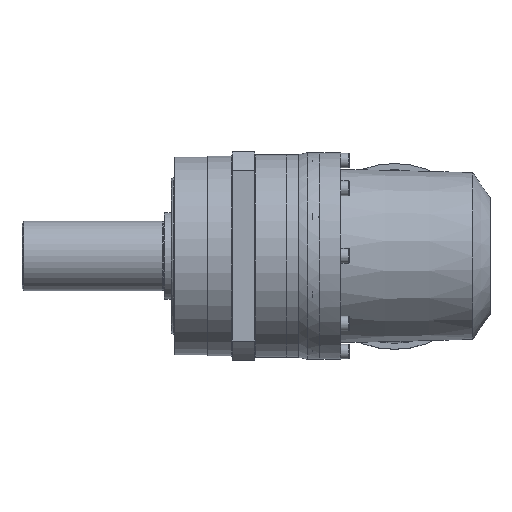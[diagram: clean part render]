
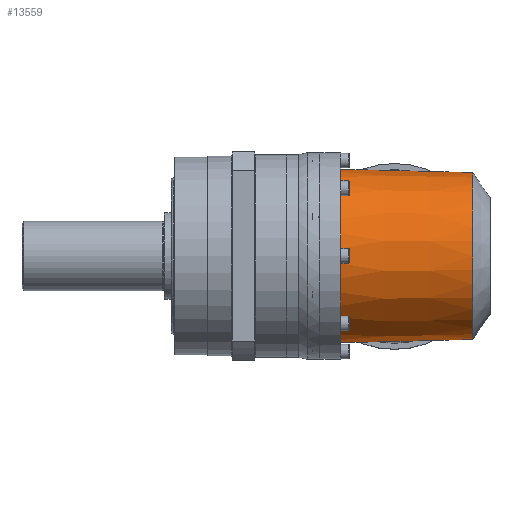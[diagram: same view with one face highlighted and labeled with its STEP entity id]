
A CAD part, top view. The second image highlights one B-rep face of the part: STEP entity #13559.
In plain terms, the highlighted conical face has half-angle 1.507 degrees and reference radius 49 mm.
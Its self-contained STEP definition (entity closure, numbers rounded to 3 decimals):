
#759=CONICAL_SURFACE('',#15159,49.,0.026);
#1571=FACE_OUTER_BOUND('',#2383,.T.);
#2383=EDGE_LOOP('',(#10405,#10406,#10407,#10408,#10409,#10410,#10411));
#3133=B_SPLINE_CURVE_WITH_KNOTS('',3,(#23238,#23239,#23240,#23241),
 .UNSPECIFIED.,.F.,.F.,(4,4),(0.5,5.292),
 .UNSPECIFIED.);
#3137=B_SPLINE_CURVE_WITH_KNOTS('',3,(#23399,#23400,#23401,#23402,#23403,
#23404,#23405,#23406,#23407,#23408,#23409,#23410,#23411,#23412,#23413,#23414,
#23415,#23416,#23417,#23418,#23419,#23420,#23421,#23422,#23423,#23424,#23425,
#23426,#23427,#23428,#23429,#23430,#23431,#23432,#23433,#23434,#23435,#23436,
#23437,#23438),.UNSPECIFIED.,.F.,.F.,(4,3,3,3,3,3,3,3,3,3,3,3,3,4),(-10.923,
-10.569,-10.204,-9.819,-9.568,
-9.149,-8.714,-8.257,-8.03,
-7.583,-7.137,-6.894,-6.651,
-6.492),.UNSPECIFIED.);
#3142=B_SPLINE_CURVE_WITH_KNOTS('',3,(#23471,#23472,#23473,#23474,#23475,
#23476,#23477,#23478,#23479,#23480,#23481,#23482,#23483,#23484,#23485,#23486,
#23487,#23488,#23489,#23490,#23491,#23492,#23493,#23494,#23495,#23496,#23497,
#23498,#23499,#23500,#23501,#23502,#23503,#23504,#23505,#23506,#23507,#23508,
#23509,#23510),.UNSPECIFIED.,.F.,.F.,(4,3,3,3,3,3,3,3,3,3,3,3,3,4),(-17.257,
-16.765,-16.229,-15.718,-15.217,-14.775,
-14.561,-14.258,-14.181,-13.89,
-13.609,-13.335,-13.072,-12.825),
 .UNSPECIFIED.);
#3143=B_SPLINE_CURVE_WITH_KNOTS('',3,(#23532,#23533,#23534,#23535),
 .UNSPECIFIED.,.F.,.F.,(4,4),(-5.292,-0.5),
 .UNSPECIFIED.);
#4840=CIRCLE('',#15160,48.);
#4841=CIRCLE('',#15161,48.);
#4842=CIRCLE('',#15162,50.);
#6111=VERTEX_POINT('',#23187);
#6112=VERTEX_POINT('',#23237);
#6114=VERTEX_POINT('',#23323);
#6115=VERTEX_POINT('',#23324);
#6116=VERTEX_POINT('',#23398);
#6120=VERTEX_POINT('',#23531);
#6123=VERTEX_POINT('',#23596);
#7810=EDGE_CURVE('',#6111,#6112,#3133,.T.);
#7814=EDGE_CURVE('',#6114,#6116,#3137,.T.);
#7819=EDGE_CURVE('',#6112,#6115,#3142,.T.);
#7820=EDGE_CURVE('',#6116,#6120,#3143,.T.);
#7824=EDGE_CURVE('',#6114,#6123,#4840,.T.);
#7825=EDGE_CURVE('',#6123,#6115,#4841,.T.);
#7826=EDGE_CURVE('',#6120,#6111,#4842,.T.);
#10405=ORIENTED_EDGE('',*,*,#7820,.F.);
#10406=ORIENTED_EDGE('',*,*,#7814,.F.);
#10407=ORIENTED_EDGE('',*,*,#7824,.T.);
#10408=ORIENTED_EDGE('',*,*,#7825,.T.);
#10409=ORIENTED_EDGE('',*,*,#7819,.F.);
#10410=ORIENTED_EDGE('',*,*,#7810,.F.);
#10411=ORIENTED_EDGE('',*,*,#7826,.F.);
#13559=ADVANCED_FACE('',(#1571),#759,.T.);
#15159=AXIS2_PLACEMENT_3D('',#23595,#17882,#17883);
#15160=AXIS2_PLACEMENT_3D('',#23597,#17884,#17885);
#15161=AXIS2_PLACEMENT_3D('',#23598,#17886,#17887);
#15162=AXIS2_PLACEMENT_3D('',#23599,#17888,#17889);
#17882=DIRECTION('center_axis',(-1.,0.,0.));
#17883=DIRECTION('ref_axis',(0.,0.,-1.));
#17884=DIRECTION('center_axis',(-1.,0.,0.));
#17885=DIRECTION('ref_axis',(0.,0.,1.));
#17886=DIRECTION('center_axis',(-1.,0.,0.));
#17887=DIRECTION('ref_axis',(0.,0.,1.));
#17888=DIRECTION('center_axis',(-1.,0.,0.));
#17889=DIRECTION('ref_axis',(0.,0.,1.));
#23187=CARTESIAN_POINT('',(12.,-35.15,35.559));
#23237=CARTESIAN_POINT('',(59.899,-34.554,34.374));
#23238=CARTESIAN_POINT('Ctrl Pts',(12.,-35.15,35.559));
#23239=CARTESIAN_POINT('Ctrl Pts',(27.966,-34.952,35.164));
#23240=CARTESIAN_POINT('Ctrl Pts',(43.932,-34.753,34.769));
#23241=CARTESIAN_POINT('Ctrl Pts',(59.899,-34.554,34.374));
#23323=CARTESIAN_POINT('',(88.,8.479,47.245));
#23324=CARTESIAN_POINT('',(88.,-8.479,47.245));
#23398=CARTESIAN_POINT('',(59.899,34.554,34.374));
#23399=CARTESIAN_POINT('Ctrl Pts',(88.,8.479,47.246));
#23400=CARTESIAN_POINT('Ctrl Pts',(87.704,9.501,47.07));
#23401=CARTESIAN_POINT('Ctrl Pts',(87.357,10.505,46.864));
#23402=CARTESIAN_POINT('Ctrl Pts',(86.962,11.488,46.631));
#23403=CARTESIAN_POINT('Ctrl Pts',(86.555,12.499,46.392));
#23404=CARTESIAN_POINT('Ctrl Pts',(86.099,13.488,46.125));
#23405=CARTESIAN_POINT('Ctrl Pts',(85.597,14.452,45.836));
#23406=CARTESIAN_POINT('Ctrl Pts',(85.068,15.466,45.53));
#23407=CARTESIAN_POINT('Ctrl Pts',(84.49,16.452,45.2));
#23408=CARTESIAN_POINT('Ctrl Pts',(83.867,17.405,44.849));
#23409=CARTESIAN_POINT('Ctrl Pts',(83.46,18.028,44.619));
#23410=CARTESIAN_POINT('Ctrl Pts',(83.034,18.637,44.381));
#23411=CARTESIAN_POINT('Ctrl Pts',(82.591,19.231,44.136));
#23412=CARTESIAN_POINT('Ctrl Pts',(81.849,20.225,43.726));
#23413=CARTESIAN_POINT('Ctrl Pts',(81.059,21.177,43.295));
#23414=CARTESIAN_POINT('Ctrl Pts',(80.223,22.089,42.849));
#23415=CARTESIAN_POINT('Ctrl Pts',(79.358,23.033,42.388));
#23416=CARTESIAN_POINT('Ctrl Pts',(78.444,23.934,41.912));
#23417=CARTESIAN_POINT('Ctrl Pts',(77.486,24.792,41.427));
#23418=CARTESIAN_POINT('Ctrl Pts',(76.482,25.691,40.919));
#23419=CARTESIAN_POINT('Ctrl Pts',(75.431,26.543,40.402));
#23420=CARTESIAN_POINT('Ctrl Pts',(74.336,27.347,39.884));
#23421=CARTESIAN_POINT('Ctrl Pts',(73.79,27.748,39.626));
#23422=CARTESIAN_POINT('Ctrl Pts',(73.233,28.138,39.368));
#23423=CARTESIAN_POINT('Ctrl Pts',(72.667,28.516,39.11));
#23424=CARTESIAN_POINT('Ctrl Pts',(71.556,29.257,38.605));
#23425=CARTESIAN_POINT('Ctrl Pts',(70.406,29.954,38.103));
#23426=CARTESIAN_POINT('Ctrl Pts',(69.22,30.605,37.613));
#23427=CARTESIAN_POINT('Ctrl Pts',(68.034,31.256,37.124));
#23428=CARTESIAN_POINT('Ctrl Pts',(66.811,31.862,36.647));
#23429=CARTESIAN_POINT('Ctrl Pts',(65.554,32.421,36.19));
#23430=CARTESIAN_POINT('Ctrl Pts',(64.87,32.726,35.942));
#23431=CARTESIAN_POINT('Ctrl Pts',(64.175,33.017,35.7));
#23432=CARTESIAN_POINT('Ctrl Pts',(63.471,33.294,35.466));
#23433=CARTESIAN_POINT('Ctrl Pts',(62.767,33.571,35.231));
#23434=CARTESIAN_POINT('Ctrl Pts',(62.053,33.834,35.005));
#23435=CARTESIAN_POINT('Ctrl Pts',(61.33,34.083,34.788));
#23436=CARTESIAN_POINT('Ctrl Pts',(60.857,34.246,34.645));
#23437=CARTESIAN_POINT('Ctrl Pts',(60.38,34.403,34.507));
#23438=CARTESIAN_POINT('Ctrl Pts',(59.899,34.554,34.374));
#23471=CARTESIAN_POINT('Ctrl Pts',(59.899,-34.554,34.374));
#23472=CARTESIAN_POINT('Ctrl Pts',(61.387,-34.087,34.787));
#23473=CARTESIAN_POINT('Ctrl Pts',(62.837,-33.563,35.243));
#23474=CARTESIAN_POINT('Ctrl Pts',(64.246,-32.982,35.727));
#23475=CARTESIAN_POINT('Ctrl Pts',(65.782,-32.349,36.256));
#23476=CARTESIAN_POINT('Ctrl Pts',(67.27,-31.648,36.82));
#23477=CARTESIAN_POINT('Ctrl Pts',(68.706,-30.882,37.403));
#23478=CARTESIAN_POINT('Ctrl Pts',(70.073,-30.152,37.959));
#23479=CARTESIAN_POINT('Ctrl Pts',(71.393,-29.363,38.532));
#23480=CARTESIAN_POINT('Ctrl Pts',(72.664,-28.514,39.11));
#23481=CARTESIAN_POINT('Ctrl Pts',(73.913,-27.68,39.678));
#23482=CARTESIAN_POINT('Ctrl Pts',(75.114,-26.789,40.251));
#23483=CARTESIAN_POINT('Ctrl Pts',(76.261,-25.841,40.817));
#23484=CARTESIAN_POINT('Ctrl Pts',(77.271,-25.005,41.315));
#23485=CARTESIAN_POINT('Ctrl Pts',(78.238,-24.124,41.809));
#23486=CARTESIAN_POINT('Ctrl Pts',(79.158,-23.199,42.289));
#23487=CARTESIAN_POINT('Ctrl Pts',(79.604,-22.751,42.522));
#23488=CARTESIAN_POINT('Ctrl Pts',(80.038,-22.292,42.752));
#23489=CARTESIAN_POINT('Ctrl Pts',(80.461,-21.822,42.978));
#23490=CARTESIAN_POINT('Ctrl Pts',(81.058,-21.158,43.297));
#23491=CARTESIAN_POINT('Ctrl Pts',(81.632,-20.474,43.609));
#23492=CARTESIAN_POINT('Ctrl Pts',(82.18,-19.768,43.91));
#23493=CARTESIAN_POINT('Ctrl Pts',(82.319,-19.589,43.986));
#23494=CARTESIAN_POINT('Ctrl Pts',(82.456,-19.408,44.062));
#23495=CARTESIAN_POINT('Ctrl Pts',(82.592,-19.227,44.137));
#23496=CARTESIAN_POINT('Ctrl Pts',(83.107,-18.537,44.422));
#23497=CARTESIAN_POINT('Ctrl Pts',(83.598,-17.827,44.697));
#23498=CARTESIAN_POINT('Ctrl Pts',(84.064,-17.1,44.96));
#23499=CARTESIAN_POINT('Ctrl Pts',(84.511,-16.4,45.213));
#23500=CARTESIAN_POINT('Ctrl Pts',(84.935,-15.683,45.454));
#23501=CARTESIAN_POINT('Ctrl Pts',(85.332,-14.95,45.682));
#23502=CARTESIAN_POINT('Ctrl Pts',(85.719,-14.236,45.905));
#23503=CARTESIAN_POINT('Ctrl Pts',(86.082,-13.506,46.116));
#23504=CARTESIAN_POINT('Ctrl Pts',(86.418,-12.763,46.312));
#23505=CARTESIAN_POINT('Ctrl Pts',(86.741,-12.048,46.5));
#23506=CARTESIAN_POINT('Ctrl Pts',(87.039,-11.32,46.676));
#23507=CARTESIAN_POINT('Ctrl Pts',(87.31,-10.581,46.836));
#23508=CARTESIAN_POINT('Ctrl Pts',(87.564,-9.89,46.986));
#23509=CARTESIAN_POINT('Ctrl Pts',(87.795,-9.189,47.123));
#23510=CARTESIAN_POINT('Ctrl Pts',(88.,-8.479,47.246));
#23531=CARTESIAN_POINT('',(12.,35.15,35.559));
#23532=CARTESIAN_POINT('Ctrl Pts',(59.899,34.554,34.374));
#23533=CARTESIAN_POINT('Ctrl Pts',(43.932,34.753,34.769));
#23534=CARTESIAN_POINT('Ctrl Pts',(27.966,34.952,35.164));
#23535=CARTESIAN_POINT('Ctrl Pts',(12.,35.15,35.559));
#23595=CARTESIAN_POINT('Origin',(50.,0.,0.));
#23596=CARTESIAN_POINT('',(88.,48.,0.));
#23597=CARTESIAN_POINT('Origin',(88.,0.,0.));
#23598=CARTESIAN_POINT('Origin',(88.,0.,0.));
#23599=CARTESIAN_POINT('Origin',(12.,0.,0.));
